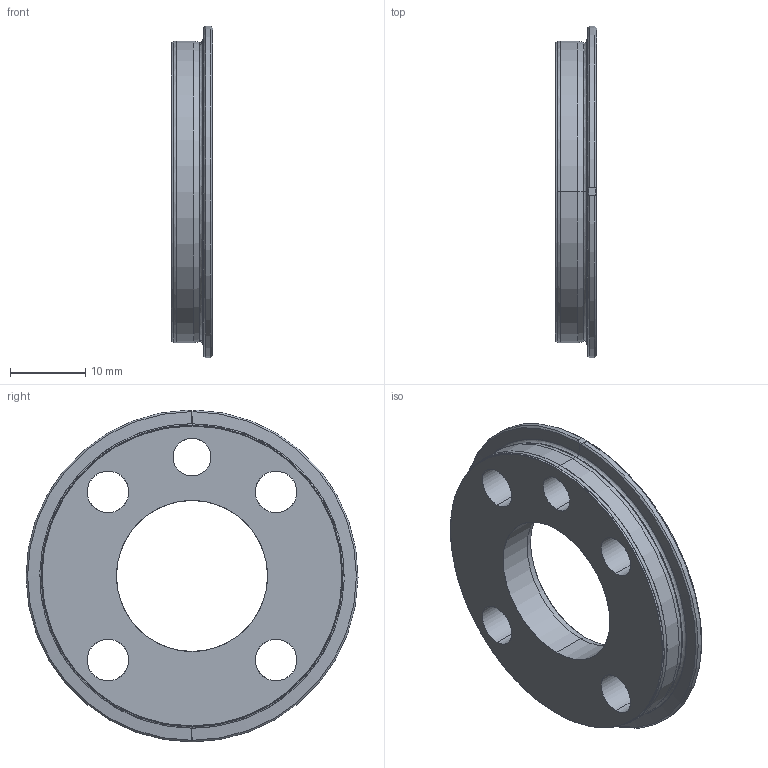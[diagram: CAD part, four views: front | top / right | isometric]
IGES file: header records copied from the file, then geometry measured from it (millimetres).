
Start section: SolidWorks IGES file using analytic representation for surfaces
Global section: file name: C:\Users\CNSHAN\Desktop\IRB1200H Light Weight Model\IRB1200H_7-70_IRC5_rev0_joints\IRB1200H_7-705-90_IRC5_Link6_rev0.igs; native system: SolidWorks 2020; preprocessor: SolidWorks 2020; author: CNSHAN; date: 220117.163537; units: millimetre
Bounding box: 5.5 x 44 x 43.99 mm (x, y, z)
Surface area: 3899.9 mm2 (no closed solid volume)
Topology: 0 solids, 0 shells, 64 faces, 1012 edges, 1012 vertices
Faces by surface type: revolution 49, bspline 15
